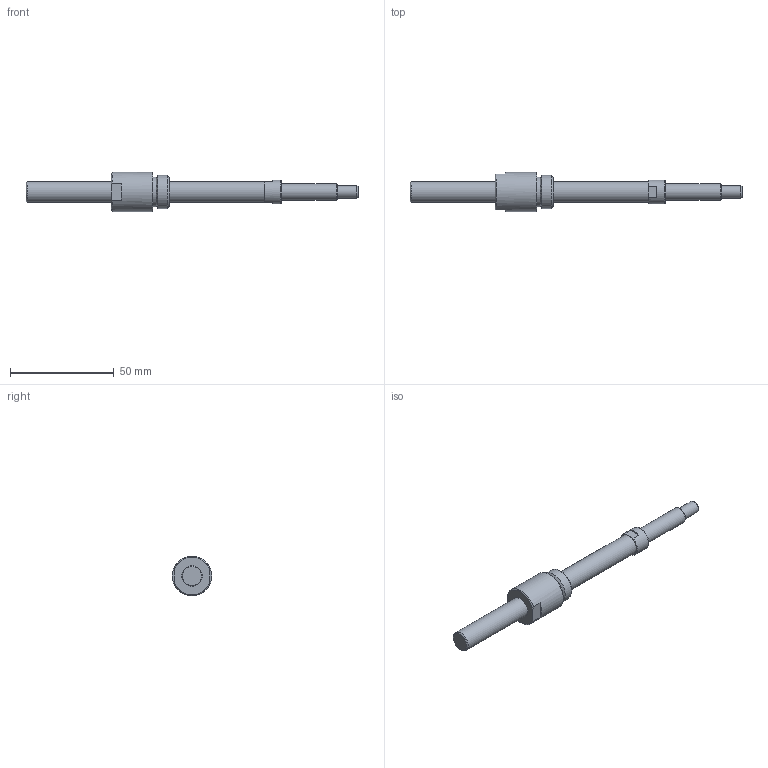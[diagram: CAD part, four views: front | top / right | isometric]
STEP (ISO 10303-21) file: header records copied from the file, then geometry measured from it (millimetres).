
FILE_DESCRIPTION(/* description */ ('STEP AP214'),/* implementation_level */ '2;1');
FILE_NAME(/* name */ 'NSG1004-110R160C5A0X(41)',/* time_stamp */ '2026-08-20T15:49:24+02:00',/* author */ ('License CC BY-ND 4.0'),/* organization */ ('CADENAS'),/* preprocessor_version */ 'ST-DEVELOPER v20',/* originating_system */ 'PARTsolutions',/* authorisation */ ' ');
FILE_SCHEMA (('AUTOMOTIVE_DESIGN {1 0 10303 214 3 1 1}'));
Length unit declared in the file: millimetre
Products named in the file (3): NSG1004-110R160C5A0X(41); NSG1004-110R160C3A_shaft; NSG1004_nut
Assembly tree (2 placements, depth 2):
  NSG1004-110R160C5A0X(41)
    NSG1004-110R160C3A_shaft
    NSG1004_nut
Bounding box: 160 x 19 x 19 mm (x, y, z)
Volume: 16375.9 mm3; surface area: 7815.7 mm2
Topology: 2 solids, 2 shells, 35 faces, 72 edges, 44 vertices
Faces by surface type: plane 17, cone 9, cylinder 8, torus 1
Full cylindrical faces by diameter (mm): 6 x1, 8 x1, 10 x2, 11.5 x1, 14.4 x1, 16 x1, 19 x1
Entity records: 907 total; most frequent: DIRECTION 158, CARTESIAN_POINT 146, ORIENTED_EDGE 108, AXIS2_PLACEMENT_3D 70, EDGE_LOOP 56, FACE_BOUND 56, EDGE_CURVE 54, VERTEX_POINT 42
